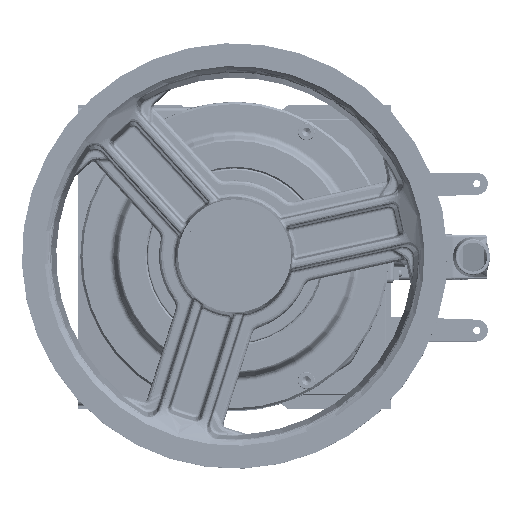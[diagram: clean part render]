
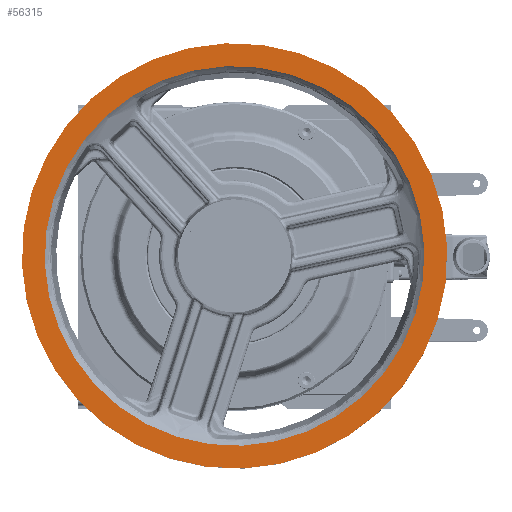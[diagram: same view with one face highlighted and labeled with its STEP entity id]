
A CAD part, top view. The second image highlights one B-rep face of the part: STEP entity #56315.
In plain terms, the highlighted planar face has unit normal (0, 0, 1).
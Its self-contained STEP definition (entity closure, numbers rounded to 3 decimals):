
#7095 = FACE_OUTER_BOUND ( 'NONE', #16616, .T. ) ;
#9082 = DIRECTION ( 'NONE',  ( 0.303, 0.953, 0. ) ) ;
#10490 = EDGE_CURVE ( 'NONE', #48883, #70894, #111873, .T. ) ;
#16616 = EDGE_LOOP ( 'NONE', ( #56942, #179874 ) ) ;
#28791 = DIRECTION ( 'NONE',  ( 0.303, 0.953, 0. ) ) ;
#31972 = DIRECTION ( 'NONE',  ( 0., 0., 1. ) ) ;
#33840 = CARTESIAN_POINT ( 'NONE',  ( -76.349, -164.436, 343.724 ) ) ;
#40018 = EDGE_CURVE ( 'NONE', #92142, #125218, #73222, .T. ) ;
#48883 = VERTEX_POINT ( 'NONE', #174407 ) ;
#56315 = ADVANCED_FACE ( 'NONE', ( #7095, #98941 ), #115700, .T. ) ;
#56942 = ORIENTED_EDGE ( 'NONE', *, *, #179924, .T. ) ;
#58679 = CARTESIAN_POINT ( 'NONE',  ( -82.851, -184.918, 343.724 ) ) ;
#68439 = CARTESIAN_POINT ( 'NONE',  ( -22.337, 5.707, 343.724 ) ) ;
#70894 = VERTEX_POINT ( 'NONE', #58679 ) ;
#73222 = CIRCLE ( 'NONE', #129578, 178.511 ) ;
#82369 = AXIS2_PLACEMENT_3D ( 'NONE', #68439, #173121, #155341 ) ;
#82890 = DIRECTION ( 'NONE',  ( 0.303, 0.953, 0. ) ) ;
#83876 = DIRECTION ( 'NONE',  ( 0., 0., 1. ) ) ;
#92142 = VERTEX_POINT ( 'NONE', #33840 ) ;
#92175 = DIRECTION ( 'NONE',  ( 0.303, 0.953, 0. ) ) ;
#96598 = EDGE_CURVE ( 'NONE', #125218, #92142, #180044, .T. ) ;
#98941 = FACE_BOUND ( 'NONE', #163083, .T. ) ;
#101344 = ORIENTED_EDGE ( 'NONE', *, *, #40018, .T. ) ;
#111873 = CIRCLE ( 'NONE', #184431, 200. ) ;
#115463 = CARTESIAN_POINT ( 'NONE',  ( -22.337, 5.707, 343.724 ) ) ;
#115700 = PLANE ( 'NONE',  #171793 ) ;
#125218 = VERTEX_POINT ( 'NONE', #161203 ) ;
#125927 = ORIENTED_EDGE ( 'NONE', *, *, #96598, .T. ) ;
#129578 = AXIS2_PLACEMENT_3D ( 'NONE', #182667, #181706, #28791 ) ;
#146285 = DIRECTION ( 'NONE',  ( 0., 0., 1. ) ) ;
#153165 = AXIS2_PLACEMENT_3D ( 'NONE', #115463, #83876, #82890 ) ;
#155341 = DIRECTION ( 'NONE',  ( 0.303, 0.953, 0. ) ) ;
#161203 = CARTESIAN_POINT ( 'NONE',  ( 31.674, 175.851, 343.724 ) ) ;
#163083 = EDGE_LOOP ( 'NONE', ( #101344, #125927 ) ) ;
#167201 = CARTESIAN_POINT ( 'NONE',  ( -22.337, 5.707, 343.724 ) ) ;
#171793 = AXIS2_PLACEMENT_3D ( 'NONE', #189731, #146285, #9082 ) ;
#173121 = DIRECTION ( 'NONE',  ( 0., 0., -1. ) ) ;
#174407 = CARTESIAN_POINT ( 'NONE',  ( 38.176, 196.333, 343.724 ) ) ;
#179874 = ORIENTED_EDGE ( 'NONE', *, *, #10490, .T. ) ;
#179924 = EDGE_CURVE ( 'NONE', #70894, #48883, #190906, .T. ) ;
#180044 = CIRCLE ( 'NONE', #82369, 178.511 ) ;
#181706 = DIRECTION ( 'NONE',  ( 0., 0., -1. ) ) ;
#182667 = CARTESIAN_POINT ( 'NONE',  ( -22.337, 5.707, 343.724 ) ) ;
#184431 = AXIS2_PLACEMENT_3D ( 'NONE', #167201, #31972, #92175 ) ;
#189731 = CARTESIAN_POINT ( 'NONE',  ( -22.337, 5.707, 343.724 ) ) ;
#190906 = CIRCLE ( 'NONE', #153165, 200. ) ;
